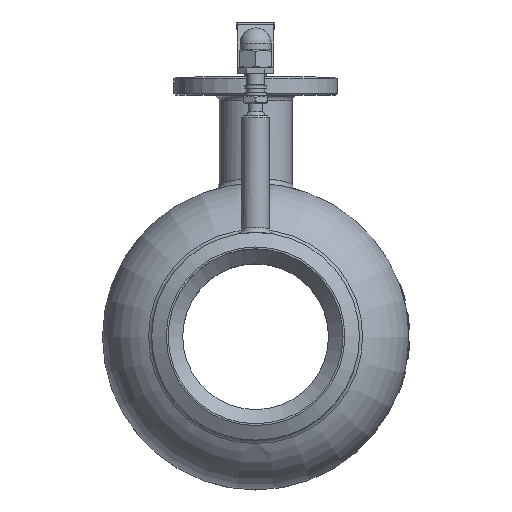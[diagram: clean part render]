
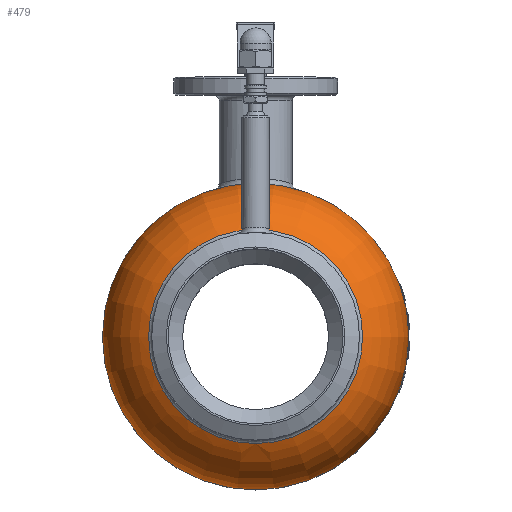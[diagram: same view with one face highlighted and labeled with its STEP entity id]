
A CAD part, top view. The second image highlights one B-rep face of the part: STEP entity #479.
In plain terms, the highlighted toroidal (fillet/blend) face has major radius 40.125 mm and minor radius 43.875 mm.
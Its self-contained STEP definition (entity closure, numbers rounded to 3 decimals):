
#479=ADVANCED_FACE('',(#2791,#2793),#2795,.T.);
#2791=FACE_OUTER_BOUND('',#2792,.T.);
#2792=EDGE_LOOP('',(#30675));
#2793=FACE_BOUND('',#2794,.T.);
#2794=EDGE_LOOP('',(#30676,#30677));
#2795=DEGENERATE_TOROIDAL_SURFACE('',#2796,40.125,43.875,.T.);
#2796=AXIS2_PLACEMENT_3D('',#2797,#2798,#2799);
#2797=CARTESIAN_POINT('',(0.,0.,40.5));
#2798=DIRECTION('',(0.,0.,1.));
#2799=DIRECTION('',(1.,0.,0.));
#30675=ORIENTED_EDGE('',*,*,#36397,.T.);
#30676=ORIENTED_EDGE('',*,*,#37014,.T.);
#30677=ORIENTED_EDGE('',*,*,#37015,.T.);
#36397=EDGE_CURVE('',#38507,#38507,#38508,.T.);
#37014=EDGE_CURVE('',#39711,#39712,#39713,.T.);
#37015=EDGE_CURVE('',#39712,#39711,#39714,.T.);
#38507=VERTEX_POINT('',#42050);
#38508=CIRCLE('',#42051,84.);
#39711=VERTEX_POINT('',#57902);
#39712=VERTEX_POINT('',#57903);
#39713=CIRCLE('',#57904,58.728);
#39714=CIRCLE('',#57908,58.728);
#42050=CARTESIAN_POINT('',(84.,0.,40.5));
#42051=AXIS2_PLACEMENT_3D('',#42052,#42053,#42054);
#42052=CARTESIAN_POINT('',(0.,0.,40.5));
#42053=DIRECTION('',(0.,0.,1.));
#42054=DIRECTION('',(1.,0.,0.));
#57902=CARTESIAN_POINT('',(58.728,0.,80.236));
#57903=CARTESIAN_POINT('',(-58.728,0.,80.236));
#57904=AXIS2_PLACEMENT_3D('',#57905,#57906,#57907);
#57905=CARTESIAN_POINT('',(0.,0.,80.236));
#57906=DIRECTION('',(0.,0.,-1.));
#57907=DIRECTION('',(1.,0.,0.));
#57908=AXIS2_PLACEMENT_3D('',#57909,#57910,#57911);
#57909=CARTESIAN_POINT('',(0.,0.,80.236));
#57910=DIRECTION('',(0.,0.,-1.));
#57911=DIRECTION('',(-1.,0.,0.));
